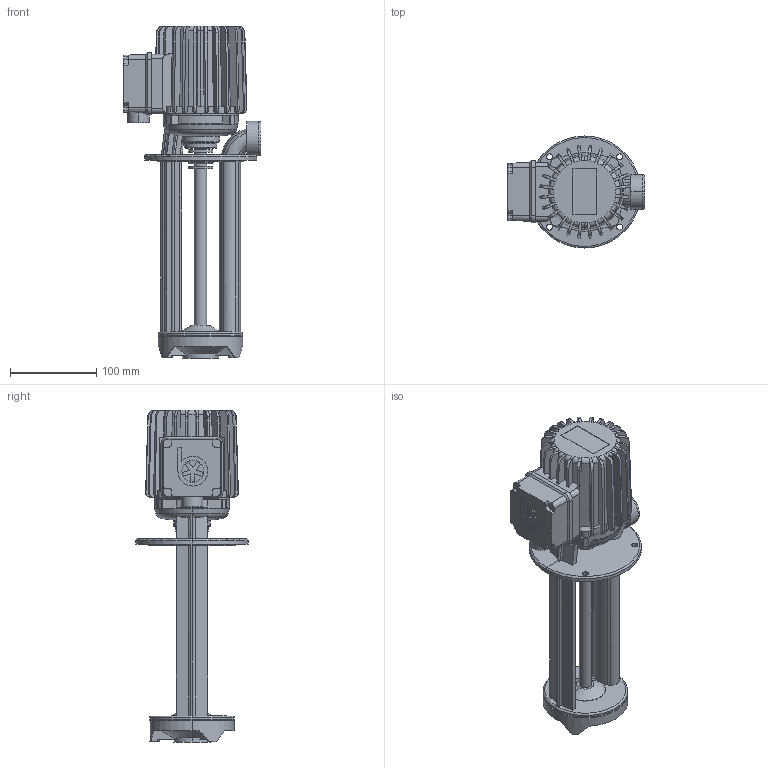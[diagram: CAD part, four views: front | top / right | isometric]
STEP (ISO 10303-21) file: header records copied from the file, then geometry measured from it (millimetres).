
FILE_DESCRIPTION(('no description'),'unknown implementation level');
FILE_NAME('TB63_220_25.stp',' ',('K. H. Brinkmann GmbH & Co. KG'),('CADClick - KiM GmbH - www.kimweb.de'),'unknown preprocess','ACIS','unknown authorization');
FILE_SCHEMA(('automotive_design'));
Length unit declared in the file: millimetre
Products named in the file (3): 1; 2; 3
Bounding box: 160 x 130 x 385 mm (x, y, z)
Volume: 1588789.7 mm3; surface area: 245706 mm2
Topology: 3 solids, 3 shells, 558 faces, 1551 edges, 1016 vertices
Faces by surface type: plane 251, cylinder 177, torus 67, cone 63
Entity records: 38590 total; most frequent: CARTESIAN_POINT 6926, STYLED_ITEM 3128, PRESENTATION_STYLE_ASSIGNMENT 3128, COLOUR_RGB 3128, ORIENTED_EDGE 3102, DIRECTION 2996, EDGE_CURVE 1551, CURVE_STYLE 1551
